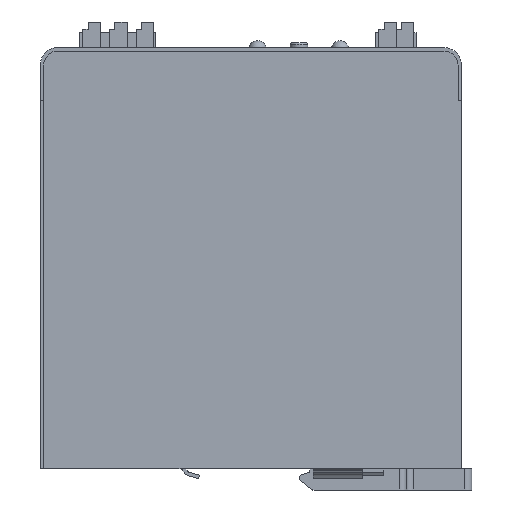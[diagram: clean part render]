
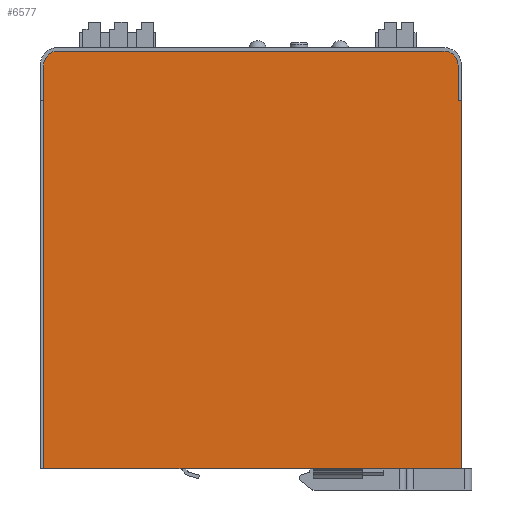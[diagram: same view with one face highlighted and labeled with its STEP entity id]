
A CAD part, left-side view. The second image highlights one B-rep face of the part: STEP entity #6577.
In plain terms, the highlighted planar face has unit normal (-1, 0, 0).
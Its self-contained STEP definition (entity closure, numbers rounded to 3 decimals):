
#6577=ADVANCED_FACE('NONE',(#14700),#14701,.T.);
#14700=FACE_OUTER_BOUND('',#24087,.T.);
#14701=PLANE('',#24088);
#24087=EDGE_LOOP('',(#44703,#44704,#44705,#44706,#44707,#44708,#44709,#44710));
#24088=AXIS2_PLACEMENT_3D('',#44711,#44712,#44713);
#44703=ORIENTED_EDGE('',*,*,#62382,.F.);
#44704=ORIENTED_EDGE('',*,*,#62383,.T.);
#44705=ORIENTED_EDGE('',*,*,#61612,.F.);
#44706=ORIENTED_EDGE('',*,*,#62384,.T.);
#44707=ORIENTED_EDGE('',*,*,#62368,.F.);
#44708=ORIENTED_EDGE('',*,*,#62321,.F.);
#44709=ORIENTED_EDGE('',*,*,#61618,.F.);
#44710=ORIENTED_EDGE('',*,*,#62385,.F.);
#44711=CARTESIAN_POINT('',(-16.195,76.131,59.5));
#44712=DIRECTION('',(-1.0,0.0,0.0));
#44713=DIRECTION('',(0.0,0.0,1.0));
#61612=EDGE_CURVE('NONE',#76452,#76453,#76454,.T.);
#61618=EDGE_CURVE('NONE',#76461,#76463,#76464,.T.);
#62321=EDGE_CURVE('NONE',#76463,#77516,#77517,.T.);
#62368=EDGE_CURVE('NONE',#77516,#77608,#77609,.T.);
#62382=EDGE_CURVE('NONE',#77627,#77628,#77629,.T.);
#62383=EDGE_CURVE('NONE',#77627,#76453,#77630,.T.);
#62384=EDGE_CURVE('NONE',#76452,#77608,#77631,.T.);
#62385=EDGE_CURVE('NONE',#77628,#76461,#77632,.T.);
#76452=VERTEX_POINT('NONE',#96100);
#76453=VERTEX_POINT('NONE',#96101);
#76454=LINE('',#96102,#96103);
#76461=VERTEX_POINT('NONE',#96113);
#76463=VERTEX_POINT('NONE',#96116);
#76464=LINE('',#96117,#96118);
#77516=VERTEX_POINT('NONE',#97522);
#77517=LINE('',#97523,#97524);
#77608=VERTEX_POINT('NONE',#97660);
#77609=LINE('',#97661,#97662);
#77627=VERTEX_POINT('NONE',#97688);
#77628=VERTEX_POINT('NONE',#97689);
#77629=LINE('',#97690,#97691);
#77630=CIRCLE('',#97692,4.0);
#77631=CIRCLE('',#97693,4.0);
#77632=LINE('',#97694,#97695);
#96100=CARTESIAN_POINT('',(-16.195,72.131,59.5));
#96101=CARTESIAN_POINT('',(-16.195,-37.869,59.5));
#96102=CARTESIAN_POINT('',(-16.195,-42.869,59.5));
#96103=VECTOR('',#111657,1000.0);
#96113=CARTESIAN_POINT('',(-16.195,-42.869,45.5));
#96116=CARTESIAN_POINT('',(-16.195,-42.869,-59.5));
#96117=CARTESIAN_POINT('',(-16.195,-42.869,59.5));
#96118=VECTOR('',#111662,1000.0);
#97522=CARTESIAN_POINT('',(-16.195,76.131,-59.5));
#97523=CARTESIAN_POINT('',(-16.195,-42.869,-59.5));
#97524=VECTOR('',#113062,1000.0);
#97660=CARTESIAN_POINT('',(-16.195,76.131,55.5));
#97661=CARTESIAN_POINT('',(-16.195,76.131,59.5));
#97662=VECTOR('',#113108,1000.0);
#97688=CARTESIAN_POINT('',(-16.195,-41.869,55.5));
#97689=CARTESIAN_POINT('',(-16.195,-41.869,45.5));
#97690=CARTESIAN_POINT('',(-16.195,-41.869,59.5));
#97691=VECTOR('',#113126,1000.0);
#97692=AXIS2_PLACEMENT_3D('',#113127,#113128,#113129);
#97693=AXIS2_PLACEMENT_3D('',#113130,#113131,#113132);
#97694=CARTESIAN_POINT('',(-16.195,-42.869,45.5));
#97695=VECTOR('',#113133,1000.0);
#111657=DIRECTION('',(-0.0,-1.0,-0.0));
#111662=DIRECTION('',(0.0,0.0,-1.0));
#113062=DIRECTION('',(0.0,1.0,0.0));
#113108=DIRECTION('',(-0.0,-0.0,1.0));
#113126=DIRECTION('',(0.0,0.,-1.0));
#113127=CARTESIAN_POINT('',(-16.195,-37.869,55.5));
#113128=DIRECTION('',(-1.0,0.0,0.0));
#113129=DIRECTION('',(0.0,0.0,1.0));
#113130=CARTESIAN_POINT('',(-16.195,72.131,55.5));
#113131=DIRECTION('',(-1.0,0.0,0.0));
#113132=DIRECTION('',(0.0,0.0,1.0));
#113133=DIRECTION('',(-0.0,-1.0,-0.0));
